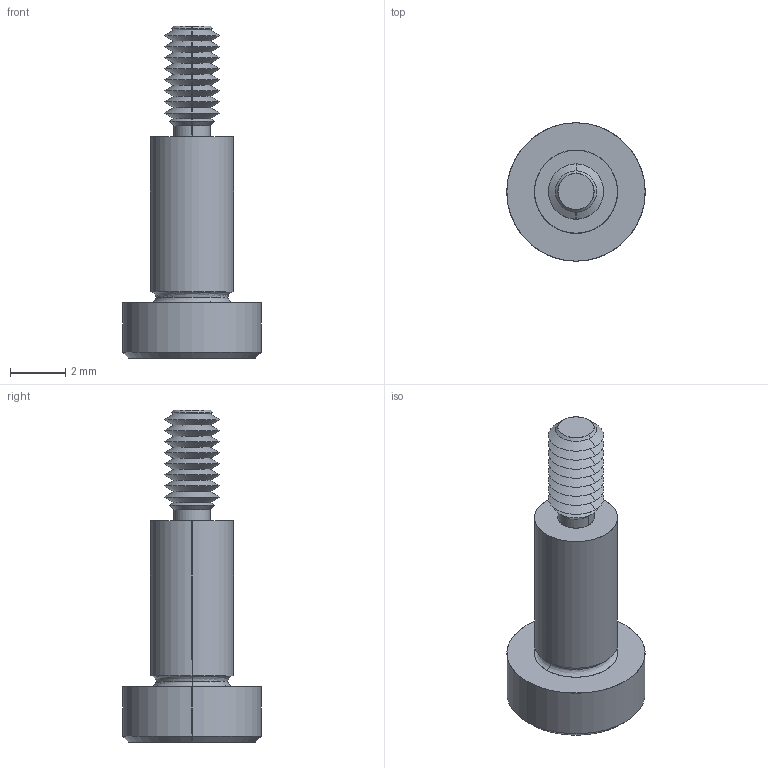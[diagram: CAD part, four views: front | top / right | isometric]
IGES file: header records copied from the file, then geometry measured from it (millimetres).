
Start section: SolidWorks IGES file using analytic representation for surfaces
Global section: file name: C:\Users\IanO\Documents\Temp Folder\GENERAL\SCREW REVISION\P0130_v2\P0130.T5_v2_20220106_IGES\P0130.030-006-T5.igs; native system: SolidWorks 2019; preprocessor: SolidWorks 2019; author: IanO; date: 220106.215925; units: millimetre
Bounding box: 5 x 5 x 12 mm (x, y, z)
Surface area: 172.8 mm2 (no closed solid volume)
Topology: 0 solids, 0 shells, 76 faces, 508 edges, 506 vertices
Faces by surface type: revolution 56, bspline 20
